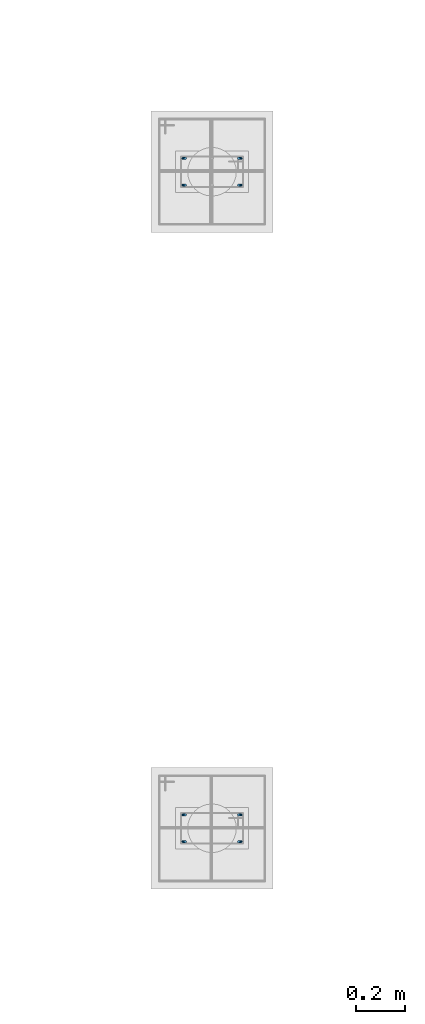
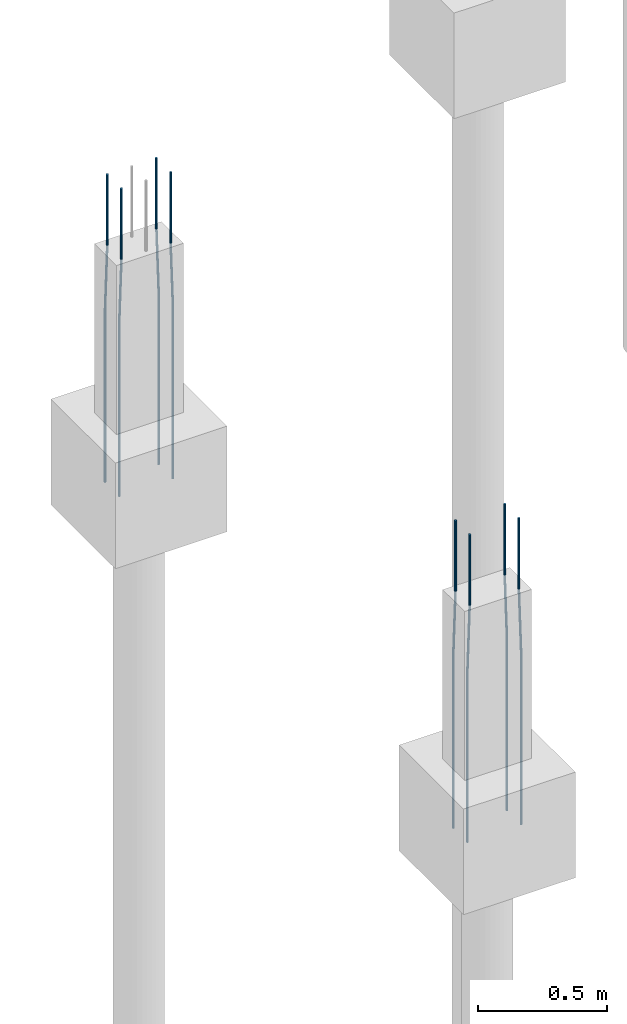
# One storey, part 53 of 119: 8 reinforcing bars.
"""IFC4 building model written with IfcOpenShell, lengths in centimetres."""

from ifc_helpers import new_model, entity, si_unit, derived_unit, frame, origin_with_axes, place, context, project, spatial, element, save


model = new_model("IFC4")

# Units and contexts
model_context = context("Model", 3, precision=1e-05, world=origin_with_axes(), identifier="Body")
ifc_project = project(units=[si_unit("LENGTHUNIT", "METRE", prefix="CENTI"), si_unit("VOLUMEUNIT", "CUBIC_METRE"), si_unit("AREAUNIT", "SQUARE_METRE"), si_unit("POWERUNIT", "WATT"), si_unit("LUMINOUSFLUXUNIT", "LUMEN"), si_unit("ELECTRICCURRENTUNIT", "AMPERE"), si_unit("PRESSUREUNIT", "PASCAL", prefix="KILO"), si_unit("MASSUNIT", "GRAM", prefix="KILO"), si_unit("PLANEANGLEUNIT", "RADIAN"), derived_unit("VOLUMETRICFLOWRATEUNIT", [(si_unit("LENGTHUNIT", "METRE"), 3), (si_unit("TIMEUNIT", "SECOND"), -1)])], contexts=[model_context])

# Site, building, storey
site_placement = place(None, frame((-4000.0, 0.0, 0.0), z_axis=(0.0, 0.0, 1.0), x_axis=(1.0, 0.0, 0.0)))
site = spatial("IfcSite", under=ifc_project, at=site_placement, Name="PADRÃO")
building_placement = place(site_placement, frame((0.0, 0.0, -14.0)))
building = spatial("IfcBuilding", under=site, at=building_placement, Name="CRECHE PRÉ-ESCOLA TIPO 2")
storey_placement = place(building_placement, origin_with_axes())
storey = spatial("IfcBuildingStorey", under=building, at=storey_placement, Name="FUNDAÇÃO", CompositionType="ELEMENT", Elevation=-14.0)

# Reinforcing bars
reinforcing_bar_1_placement = place(storey_placement, frame((2260.26, 3464.52, 33.3573001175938), z_axis=(0.0, 0.0, 1.0), x_axis=(1.0, 0.0, 0.0)))
element("IfcReinforcingBar", 1, at=reinforcing_bar_1_placement, inside=storey, Name="P42 - Longitudinal", BarLength=0.0, CrossSectionArea=7.853981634e-05, NominalDiameter=1.0, PredefinedType="MAIN", context=model_context, shape_type="AdvancedSweptSolid", body=[
    entity("IfcSweptDiskSolid", entity("IfcCompositeCurve", [entity("IfcCompositeCurveSegment", "CONTINUOUS", True, entity("IfcPolyline", [entity("IfcCartesianPoint", [0.5, 0.0, -145.357300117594]), entity("IfcCartesianPoint", [0.5, 0.0, -63.3573001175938])])), entity("IfcCompositeCurveSegment", "CONTINUOUS", True, entity("IfcPolyline", [entity("IfcCartesianPoint", [0.5, 0.0, -63.3573001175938]), entity("IfcCartesianPoint", [-0.5, 0.0, -33.3573001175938])])), entity("IfcCompositeCurveSegment", "CONTINUOUS", True, entity("IfcPolyline", [entity("IfcCartesianPoint", [-0.5, 0.0, -33.3573001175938]), entity("IfcCartesianPoint", [-0.5, 0.0, 0.0])]))], False), 0.5),
])
for number, where, z_axis, x_axis, name in (
    (2, (2237.26, 3464.52, 33.3573001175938), (0.0, 0.0, 1.0), (1.0, 0.0, 0.0), "P42 - Longitudinal"),
    (3, (2237.26, 3475.52, 33.3573001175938), (0.0, 0.0, 1.0), (1.0, 0.0, 0.0), "P42 - Longitudinal"),
):
    element("IfcReinforcingBar", number, at=place(storey_placement, frame(where, z_axis=z_axis, x_axis=x_axis)), inside=storey, Name=name, BarLength=0.0, CrossSectionArea=7.853981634e-05, NominalDiameter=1.0, PredefinedType="MAIN", context=model_context, shape_type="AdvancedSweptSolid", body=[
        entity("IfcSweptDiskSolid", entity("IfcCompositeCurve", [entity("IfcCompositeCurveSegment", "CONTINUOUS", True, entity("IfcPolyline", [entity("IfcCartesianPoint", [-0.5, 0.0, -145.357300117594]), entity("IfcCartesianPoint", [-0.5, 0.0, -63.3573001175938])])), entity("IfcCompositeCurveSegment", "CONTINUOUS", True, entity("IfcPolyline", [entity("IfcCartesianPoint", [-0.5, 0.0, -63.3573001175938]), entity("IfcCartesianPoint", [0.5, 0.0, -33.3573001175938])])), entity("IfcCompositeCurveSegment", "CONTINUOUS", True, entity("IfcPolyline", [entity("IfcCartesianPoint", [0.5, 0.0, -33.3573001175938]), entity("IfcCartesianPoint", [0.5, 0.0, 0.0])]))], False), 0.5),
    ])
reinforcing_bar_2_placement = place(storey_placement, frame((2260.26, 3475.52, 33.3573001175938), z_axis=(0.0, 0.0, 1.0), x_axis=(1.0, 0.0, 0.0)))
element("IfcReinforcingBar", 4, at=reinforcing_bar_2_placement, inside=storey, Name="P42 - Longitudinal", BarLength=0.0, CrossSectionArea=7.853981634e-05, NominalDiameter=1.0, PredefinedType="MAIN", context=model_context, shape_type="AdvancedSweptSolid", body=[
    entity("IfcSweptDiskSolid", entity("IfcCompositeCurve", [entity("IfcCompositeCurveSegment", "CONTINUOUS", True, entity("IfcPolyline", [entity("IfcCartesianPoint", [0.5, 0.0, -145.357300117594]), entity("IfcCartesianPoint", [0.5, 0.0, -63.3573001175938])])), entity("IfcCompositeCurveSegment", "CONTINUOUS", True, entity("IfcPolyline", [entity("IfcCartesianPoint", [0.5, 0.0, -63.3573001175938]), entity("IfcCartesianPoint", [-0.5, 0.0, -33.3573001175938])])), entity("IfcCompositeCurveSegment", "CONTINUOUS", True, entity("IfcPolyline", [entity("IfcCartesianPoint", [-0.5, 0.0, -33.3573001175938]), entity("IfcCartesianPoint", [-0.5, 0.0, 0.0])]))], False), 0.5),
])
reinforcing_bar_3_placement = place(storey_placement, frame((2237.26, 3205.52, 33.3573001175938), z_axis=(0.0, 0.0, 1.0), x_axis=(1.0, 0.0, 0.0)))
element("IfcReinforcingBar", 5, at=reinforcing_bar_3_placement, inside=storey, Name="P52 - Longitudinal", BarLength=0.0, CrossSectionArea=7.853981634e-05, NominalDiameter=1.0, PredefinedType="MAIN", context=model_context, shape_type="AdvancedSweptSolid", body=[
    entity("IfcSweptDiskSolid", entity("IfcCompositeCurve", [entity("IfcCompositeCurveSegment", "CONTINUOUS", True, entity("IfcPolyline", [entity("IfcCartesianPoint", [-0.5, 0.0, -145.357300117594]), entity("IfcCartesianPoint", [-0.5, 0.0, -63.3573001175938])])), entity("IfcCompositeCurveSegment", "CONTINUOUS", True, entity("IfcPolyline", [entity("IfcCartesianPoint", [-0.5, 0.0, -63.3573001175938]), entity("IfcCartesianPoint", [0.5, 0.0, -33.3573001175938])])), entity("IfcCompositeCurveSegment", "CONTINUOUS", True, entity("IfcPolyline", [entity("IfcCartesianPoint", [0.5, 0.0, -33.3573001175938]), entity("IfcCartesianPoint", [0.5, 0.0, 0.0])]))], False), 0.5),
])
for number, where, z_axis, x_axis, name in (
    (6, (2260.26, 3194.52, 33.3573001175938), (0.0, 0.0, 1.0), (1.0, 0.0, 0.0), "P52 - Longitudinal"),
    (7, (2260.26, 3205.52, 33.3573001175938), (0.0, 0.0, 1.0), (1.0, 0.0, 0.0), "P52 - Longitudinal"),
):
    element("IfcReinforcingBar", number, at=place(storey_placement, frame(where, z_axis=z_axis, x_axis=x_axis)), inside=storey, Name=name, BarLength=0.0, CrossSectionArea=7.853981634e-05, NominalDiameter=1.0, PredefinedType="MAIN", context=model_context, shape_type="AdvancedSweptSolid", body=[
        entity("IfcSweptDiskSolid", entity("IfcCompositeCurve", [entity("IfcCompositeCurveSegment", "CONTINUOUS", True, entity("IfcPolyline", [entity("IfcCartesianPoint", [0.5, 0.0, -145.357300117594]), entity("IfcCartesianPoint", [0.5, 0.0, -63.3573001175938])])), entity("IfcCompositeCurveSegment", "CONTINUOUS", True, entity("IfcPolyline", [entity("IfcCartesianPoint", [0.5, 0.0, -63.3573001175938]), entity("IfcCartesianPoint", [-0.5, 0.0, -33.3573001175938])])), entity("IfcCompositeCurveSegment", "CONTINUOUS", True, entity("IfcPolyline", [entity("IfcCartesianPoint", [-0.5, 0.0, -33.3573001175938]), entity("IfcCartesianPoint", [-0.5, 0.0, 0.0])]))], False), 0.5),
    ])
reinforcing_bar_4_placement = place(storey_placement, frame((2237.26, 3194.52, 33.3573001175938), z_axis=(0.0, 0.0, 1.0), x_axis=(1.0, 0.0, 0.0)))
element("IfcReinforcingBar", 8, at=reinforcing_bar_4_placement, inside=storey, Name="P52 - Longitudinal", BarLength=0.0, CrossSectionArea=7.853981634e-05, NominalDiameter=1.0, PredefinedType="MAIN", context=model_context, shape_type="AdvancedSweptSolid", body=[
    entity("IfcSweptDiskSolid", entity("IfcCompositeCurve", [entity("IfcCompositeCurveSegment", "CONTINUOUS", True, entity("IfcPolyline", [entity("IfcCartesianPoint", [-0.5, 0.0, -145.357300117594]), entity("IfcCartesianPoint", [-0.5, 0.0, -63.3573001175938])])), entity("IfcCompositeCurveSegment", "CONTINUOUS", True, entity("IfcPolyline", [entity("IfcCartesianPoint", [-0.5, 0.0, -63.3573001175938]), entity("IfcCartesianPoint", [0.5, 0.0, -33.3573001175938])])), entity("IfcCompositeCurveSegment", "CONTINUOUS", True, entity("IfcPolyline", [entity("IfcCartesianPoint", [0.5, 0.0, -33.3573001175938]), entity("IfcCartesianPoint", [0.5, 0.0, 0.0])]))], False), 0.5),
])

save(model, "model.ifc")
